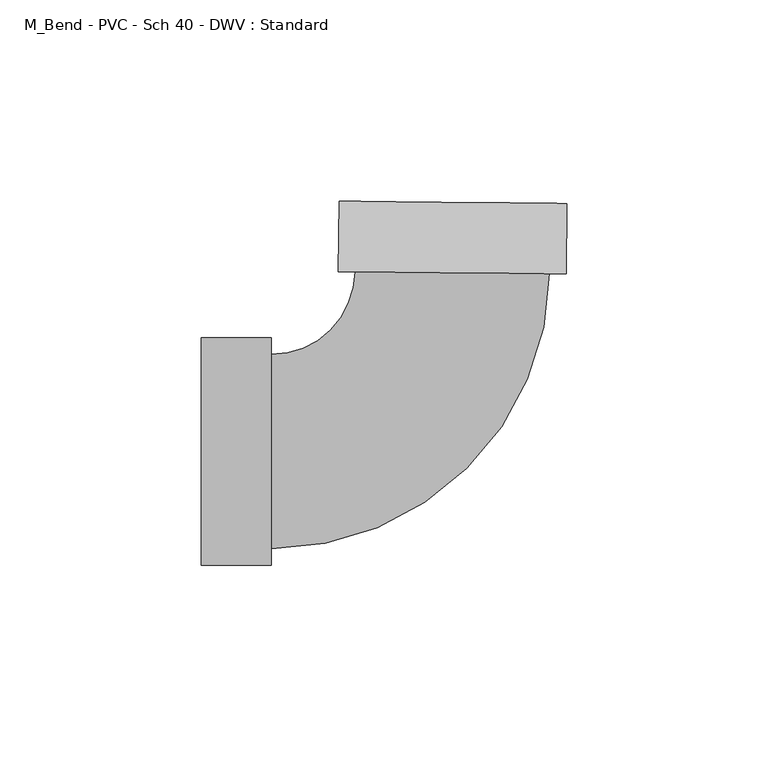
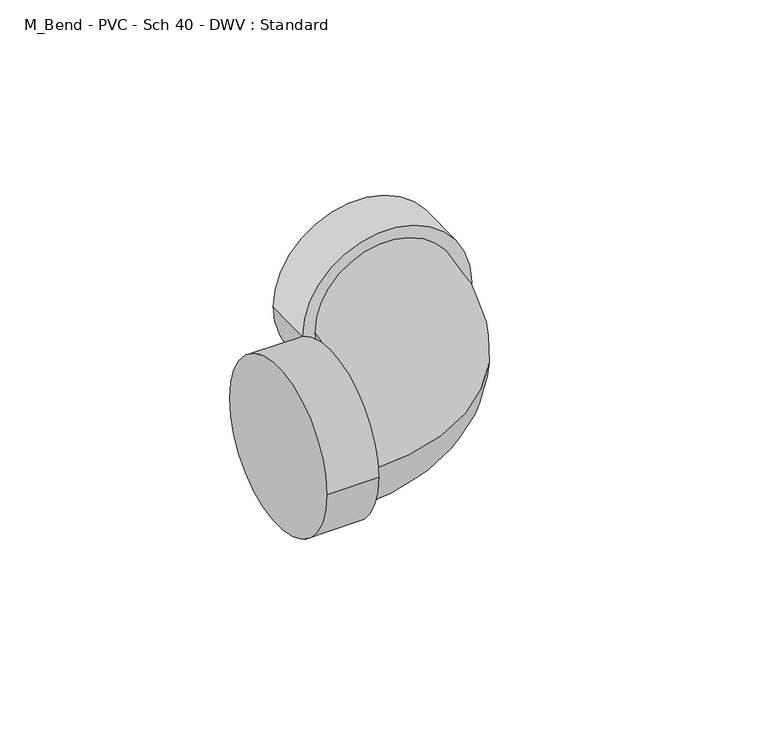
"""IFC4 building model written with IfcOpenShell, lengths in millimetres: pipe fitting geometry, M_Bend - PVC - Sch 40 - DWV : Standard."""

import ifcopenshell
import ifcopenshell.guid

model = None  # the IFC model being written
_history = None  # IfcOwnerHistory: only IFC2X3 demands one
_inside = {}  # id of a spatial element -> (the spatial element, [elements in it])
_under = {}  # id of a project, library or spatial element -> (it, [spatial elements below it])
_declared = {}  # id of a project -> (the project, [libraries it declares])
_typed = {}  # id of a type object -> (the type object, [elements of that type])
_made_of = {}  # id of a material, layer set ... -> (it, [elements and type objects made of it])


def new_model(schema):
    """Start an empty IFC model of exactly this schema.

    Asked for "IFC4X3", IfcOpenShell would pick the latest addendum, in which some entities
    have other attributes; the version numbers below select the first issue.
    IFC2X3 requires an IfcOwnerHistory on every rooted entity: one is made here for all.
    """
    global model, _history
    if schema == "IFC4X3":
        model = ifcopenshell.file(schema_version=(4, 3, 0, 0))
    else:
        model = ifcopenshell.file(schema=schema)
    _inside.clear()
    _under.clear()
    _declared.clear()
    _typed.clear()
    _made_of.clear()
    _history = None
    if model.schema == "IFC2X3":
        org = make("IfcOrganization", Name="unknown")
        user = make(
            "IfcPersonAndOrganization",
            ThePerson=make("IfcPerson", FamilyName="unknown"),
            TheOrganization=org,
        )
        app = make(
            "IfcApplication",
            ApplicationDeveloper=org,
            Version="unknown",
            ApplicationFullName="unknown",
            ApplicationIdentifier="unknown",
        )
        _history = make(
            "IfcOwnerHistory",
            OwningUser=user,
            OwningApplication=app,
            ChangeAction="ADDED",
            CreationDate=0,
        )
    return model


def make(cls, **values):
    """One entity of the class cls with the attributes given. An attribute that is None is left unset."""
    return model.create_entity(
        cls, **{name: value for name, value in values.items() if value is not None}
    )


def rooted(cls, **values):
    """An entity with a GlobalId (a new one), such as an element, a storey or a relation."""
    return make(cls, GlobalId=ifcopenshell.guid.new(), OwnerHistory=_history, **values)


def si_unit(unit_type, name, prefix=None):
    """IfcSIUnit, for example si_unit("LENGTHUNIT", "METRE", prefix="MILLI")."""
    return make("IfcSIUnit", UnitType=unit_type, Prefix=prefix, Name=name)


def assignment(units):
    """IfcUnitAssignment: the units of a project."""
    return None if units is None else make("IfcUnitAssignment", Units=units)


def point(xyz):
    """IfcCartesianPoint."""
    return None if xyz is None else make("IfcCartesianPoint", Coordinates=xyz)


def direction(xyz):
    """IfcDirection."""
    return None if xyz is None else make("IfcDirection", DirectionRatios=xyz)


def frame(location, z_axis=None, x_axis=None):
    """IfcAxis2Placement3D, a coordinate frame: its origin and axes. An axis left out is left unset."""
    return make(
        "IfcAxis2Placement3D",
        Location=point(location),
        Axis=direction(z_axis),
        RefDirection=direction(x_axis),
    )


def origin():
    """The frame at (0, 0, 0) with its axes left unset."""
    return frame((0.0, 0.0, 0.0))


def place(relative_to, where):
    """IfcLocalPlacement: puts the frame where relative to a parent placement (None: the world)."""
    return make(
        "IfcLocalPlacement", PlacementRelTo=relative_to, RelativePlacement=where
    )


def context(
    kind, dimensions, precision=None, world=None, true_north=None, identifier=None
):
    """IfcGeometricRepresentationContext, for example the 3D "Model" context."""
    return make(
        "IfcGeometricRepresentationContext",
        ContextIdentifier=identifier,
        ContextType=kind,
        CoordinateSpaceDimension=dimensions,
        Precision=precision,
        WorldCoordinateSystem=world,
        TrueNorth=true_north,
    )


def project(units=None, contexts=None):
    """IfcProject with its units and contexts."""
    return rooted(
        "IfcProject",
        Name="project",
        RepresentationContexts=contexts,
        UnitsInContext=assignment(units),
    )


def spatial(cls, under=None, at=None, **own):
    """A site, building, storey or space (cls), placed at a placement, below another one or the project."""
    s = rooted(cls, ObjectPlacement=at, **own)
    if under is not None:
        _under.setdefault(under.id(), (under, []))[1].append(s)
    return s


def circle_curve(where, radius):
    """IfcCircle in the frame where."""
    return make("IfcCircle", Position=where, Radius=radius)


def ellipse_curve(where, semi_axis1, semi_axis2):
    """IfcEllipse in the frame where."""
    return make(
        "IfcEllipse", Position=where, SemiAxis1=semi_axis1, SemiAxis2=semi_axis2
    )


def trimmed(basis, trim1, trim2, sense, master):
    """IfcTrimmedCurve: the piece of a basis curve between two trims."""
    return make(
        "IfcTrimmedCurve",
        BasisCurve=basis,
        Trim1=trim1,
        Trim2=trim2,
        SenseAgreement=sense,
        MasterRepresentation=master,
    )


def shape(context_of_items, identifier, shape_type, items):
    """IfcShapeRepresentation: the items that make up one representation, for example the "Body"."""
    return make(
        "IfcShapeRepresentation",
        ContextOfItems=context_of_items,
        RepresentationIdentifier=identifier,
        RepresentationType=shape_type,
        Items=items,
    )


def source(mapping_origin, context_of_items, identifier, shape_type, items):
    """IfcRepresentationMap: a shape defined once, which mapped items show again and again."""
    return make(
        "IfcRepresentationMap",
        MappingOrigin=mapping_origin,
        MappedRepresentation=shape(context_of_items, identifier, shape_type, items),
    )


def transform(
    local_origin,
    x_axis=None,
    y_axis=None,
    z_axis=None,
    scale=None,
    scale2=None,
    scale3=None,
    uniform=True,
):
    """IfcCartesianTransformationOperator3D, or its non-uniform kind. x_axis, y_axis, z_axis: its Axis1, 2, 3."""
    if uniform:
        return make(
            "IfcCartesianTransformationOperator3D",
            Axis1=direction(x_axis),
            Axis2=direction(y_axis),
            LocalOrigin=point(local_origin),
            Scale=scale,
            Axis3=direction(z_axis),
        )
    return make(
        "IfcCartesianTransformationOperator3DnonUniform",
        Axis1=direction(x_axis),
        Axis2=direction(y_axis),
        LocalOrigin=point(local_origin),
        Scale=scale,
        Axis3=direction(z_axis),
        Scale2=scale2,
        Scale3=scale3,
    )


def mapped(mapping_source, mapping_target):
    """IfcMappedItem: shows the shape of a source again, moved by a transform."""
    return make(
        "IfcMappedItem", MappingSource=mapping_source, MappingTarget=mapping_target
    )


def made_of(thing, what):
    """Note that an element or type object is made of a material, layer set ...; save() writes the relation."""
    if what is not None:
        _made_of.setdefault(what.id(), (what, []))[1].append(thing)
    return thing


def element(
    cls,
    number,
    at=None,
    inside=None,
    cuts=None,
    type_object=None,
    material=None,
    context=None,
    identifier="Body",
    shape_type=None,
    held_by="IfcProductDefinitionShape",
    body=None,
    shapes=None,
    **own,
):
    """One element of the class cls, such as IfcWall. Its Tag is "e" and its number.

    at: its placement. inside: the storey or other place that contains it. cuts: it is an
    opening in that element (IfcRelVoidsElement). A single representation is given by context,
    identifier, shape_type and body (its items); several are given by shapes. held_by: the class
    of the entity that holds the representations. save() writes the other relations.
    """
    e = rooted(cls, Tag="e%d" % number, ObjectPlacement=at, **own)
    if body is not None:
        shapes = [shape(context, identifier, shape_type, body)]
    if shapes is not None:
        e.Representation = make(held_by, Representations=shapes)
    if inside is not None:
        _inside.setdefault(inside.id(), (inside, []))[1].append(e)
    if cuts is not None:
        rooted(
            "IfcRelVoidsElement", RelatingBuildingElement=cuts, RelatedOpeningElement=e
        )
    if type_object is not None:
        _typed.setdefault(type_object.id(), (type_object, []))[1].append(e)
    return made_of(e, material)


def aggregate(whole, parts):
    """IfcRelAggregates: a whole, such as a stair, and the parts it consists of."""
    return rooted("IfcRelAggregates", RelatingObject=whole, RelatedObjects=parts)


def save(model, path):
    """Write the relations noted so far, then the file.

    IfcRelAggregates (storeys below a building ...), IfcRelContainedInSpatialStructure (elements
    in a storey), IfcRelDefinesByType, IfcRelAssociatesMaterial and IfcRelDeclares: one each for
    every whole, place, type object, material and project.
    """
    for whole, parts in _under.values():
        aggregate(whole, parts)
    for where, things in _inside.values():
        rooted(
            "IfcRelContainedInSpatialStructure",
            RelatedElements=things,
            RelatingStructure=where,
        )
    for kind, things in _typed.values():
        rooted("IfcRelDefinesByType", RelatedObjects=things, RelatingType=kind)
    for what, things in _made_of.values():
        rooted("IfcRelAssociatesMaterial", RelatedObjects=things, RelatingMaterial=what)
    for by, libraries in _declared.values():
        rooted("IfcRelDeclares", RelatingContext=by, RelatedDefinitions=libraries)
    model.write(path)


def plane_surface(at):
    """IfcPlane: the flat surface through the origin of the frame at, square to its z axis."""
    return make("IfcPlane", Position=at)


def cylinder_surface(at, radius):
    """IfcCylindricalSurface: all points at the distance radius from the z axis of the frame at."""
    return make("IfcCylindricalSurface", Position=at, Radius=radius)


def revolved_surface(curve, axis_point, axis_direction):
    """IfcSurfaceOfRevolution: the curve turned about the line through axis_point along axis_direction."""
    return make(
        "IfcSurfaceOfRevolution",
        SweptCurve=make("IfcArbitraryOpenProfileDef", ProfileType="CURVE", Curve=curve),
        AxisPosition=make("IfcAxis1Placement", Location=point(axis_point), Axis=direction(axis_direction)),
    )


def advanced_brep(points, edges, surfaces, faces):
    """IfcAdvancedBrep: a solid bounded by faces that lie on surfaces and meet in shared edges.

    An edge is (start, end): straight between two places in points (the first is 0);
    or (start, end, curve); or (start, end, curve, False) where it runs against its curve.
    A face is (place in surfaces, loops), or (place, loops, False) where it looks against
    its surface's normal. A loop lists edges by number (the first is 1), with a minus sign
    where the edge is run from its end to its start. The first loop is the outer one.
    """
    corners = [point(p) for p in points]
    vertices = [make("IfcVertexPoint", VertexGeometry=c) for c in corners]
    made = []
    for start, end, *more in edges:
        made.append(
            make(
                "IfcEdgeCurve",
                EdgeStart=vertices[start],
                EdgeEnd=vertices[end],
                EdgeGeometry=more[0] if more else make("IfcPolyline", Points=[corners[start], corners[end]]),
                SameSense=more[1] if len(more) > 1 else True,
            )
        )
    hull = []
    for where, loops, *sense in faces:
        bounds = []
        for j, loop in enumerate(loops):
            ring = [make("IfcOrientedEdge", EdgeElement=made[abs(k) - 1], Orientation=k > 0) for k in loop]
            bounds.append(
                make(
                    "IfcFaceOuterBound" if j == 0 else "IfcFaceBound",
                    Bound=make("IfcEdgeLoop", EdgeList=ring),
                    Orientation=True,
                )
            )
        hull.append(make("IfcAdvancedFace", Bounds=bounds, FaceSurface=surfaces[where], SameSense=sense[0] if sense else True))
    return make("IfcAdvancedBrep", Outer=make("IfcClosedShell", CfsFaces=hull))


def m_bend_pvc_sch_40_dwv_standard_1e7bdcc1(model_context):
    return source(origin(), model_context, "Body", "AdvancedBrep", [
        advanced_brep(
        [(-61.8998, -28.2829, 0.0), (-61.8998, 28.2829, 0.0), (-44.45, -28.2829, 0.0), (-44.45, 28.2829, 0.0), (-44.45, -24.13, 0.0), (-44.45, 24.13, 0.0), (-23.6843158, 44.6890656, 0.0), (24.5732714, 44.2064897, 0.0), (28.7259637, 44.1649628, 0.0), (-27.8370082, 44.7305925, 0.0), (28.900453, 61.6138904, 0.0), (-27.6625189, 62.1795201, 0.0)],
        [
            (0, 1, circle_curve(frame((-61.8998, 0.0, 0.0), z_axis=(-1.0, 0.0, 0.0), x_axis=(0.0, 1.0, 0.0)), 28.2829)),
            (1, 0, circle_curve(frame((-61.8998, 0.0, 0.0), z_axis=(-1.0, 0.0, 0.0), x_axis=(0.0, 1.0, 0.0)), 28.2829)),
            (2, 3, circle_curve(frame((-44.45, 0.0, 0.0), z_axis=(1.0, 0.0, 0.0), x_axis=(0.0, 1.0, 0.0)), 28.2829)),
            (3, 2, circle_curve(frame((-44.45, 0.0, 0.0), z_axis=(1.0, 0.0, 0.0), x_axis=(0.0, 1.0, 0.0)), 28.2829)),
            (4, 5, circle_curve(frame((-44.45, 0.0, 0.0), z_axis=(-1.0, 0.0, 0.0), x_axis=(0.0, 1.0, 0.0)), 24.13)),
            (5, 4, circle_curve(frame((-44.45, 0.0, 0.0), z_axis=(-1.0, 0.0, 0.0), x_axis=(0.0, 1.0, 0.0)), 24.13)),
            (0, 2),
            (3, 1),
            (6, 5, circle_curve(frame((-44.45, 44.8967224, 0.0), z_axis=(0.0, 0.0, -1.0), x_axis=(0.0, -1.0, 0.0)), 20.7667224)),
            (4, 7, circle_curve(frame((-44.45, 44.8967224, 0.0), z_axis=(0.0, 0.0, 1.0), x_axis=(0.0, -1.0, 0.0)), 69.0267224)),
            (7, 6, circle_curve(frame((0.4444778, 44.4477777, 0.0), z_axis=(-0.009999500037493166, -0.9999500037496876, 0.0), x_axis=(-0.9999500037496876, 0.009999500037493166, 0.0)), 24.13)),
            (6, 7, circle_curve(frame((0.4444778, 44.4477777, 0.0), z_axis=(-0.009999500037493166, -0.9999500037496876, 0.0), x_axis=(-0.9999500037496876, 0.009999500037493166, 0.0)), 24.13)),
            (8, 9, circle_curve(frame((0.4444778, 44.4477777, 0.0), z_axis=(-0.009999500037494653, -0.9999500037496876, 0.0), x_axis=(-0.9999500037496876, 0.009999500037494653, 0.0)), 28.2829)),
            (9, 8, circle_curve(frame((0.4444778, 44.4477777, 0.0), z_axis=(-0.009999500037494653, -0.9999500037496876, 0.0), x_axis=(-0.9999500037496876, 0.009999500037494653, 0.0)), 28.2829)),
            (10, 11, circle_curve(frame((0.6189671, 61.8967052, 0.0), z_axis=(0.009999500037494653, 0.9999500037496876, 0.0), x_axis=(-0.9999500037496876, 0.009999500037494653, 0.0)), 28.2829)),
            (11, 10, circle_curve(frame((0.6189671, 61.8967052, 0.0), z_axis=(0.009999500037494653, 0.9999500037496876, 0.0), x_axis=(-0.9999500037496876, 0.009999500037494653, 0.0)), 28.2829)),
            (8, 10),
            (11, 9),
        ],
        [
            plane_surface(frame((-61.8998, 0.0, 0.0), z_axis=(-1.0, 0.0, 0.0), x_axis=(0.0, 0.0, 1.0))),
            plane_surface(frame((-44.45, 0.0, 0.0), z_axis=(1.0, 0.0, 0.0), x_axis=(0.0, 0.0, 1.0))),
            cylinder_surface(frame((-61.8998, 0.0, 0.0), z_axis=(-1.0, 0.0, 0.0), x_axis=(0.0, 1.0, 0.0)), 28.2829),
            revolved_surface(trimmed(ellipse_curve(frame((-44.45, 0.0, 0.0), z_axis=(-1.0, 0.0, 0.0), x_axis=(0.0, 1.0, 0.0)), 24.13, 24.13), [point((-44.45, -24.13, 0.0))], [point((-44.45, 24.13, 0.0))], True, "CARTESIAN"), (-44.45, 44.8967224, 0.0), (0.0, 0.0, 1.0)),
            revolved_surface(trimmed(ellipse_curve(frame((-44.45, 0.0, 0.0), z_axis=(-1.0, 0.0, 0.0), x_axis=(0.0, 1.0, 0.0)), 24.13, 24.13), [point((-44.45, 24.13, 0.0))], [point((-44.45, -24.13, 0.0))], True, "CARTESIAN"), (-44.45, 44.8967224, 0.0), (0.0, 0.0, 1.0)),
            plane_surface(frame((0.4444778, 44.4477777, 0.0), z_axis=(-0.009999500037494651, -0.9999500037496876, 0.0), x_axis=(0.0, 0.0, 1.0))),
            plane_surface(frame((0.6189671, 61.8967052, 0.0), z_axis=(0.009999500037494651, 0.9999500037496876, 0.0), x_axis=(0.0, 0.0, 1.0))),
            cylinder_surface(frame((0.4444778, 44.4477777, 0.0), z_axis=(-0.009999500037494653, -0.9999500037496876, 0.0), x_axis=(-0.9999500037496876, 0.009999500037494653, 0.0)), 28.2829),
        ],
        [
            (0, [[1, 2]]),
            (1, [[3, 4], [5, 6]]),
            (2, [[-1, 7, -4, 8]]),
            (2, [[-2, -8, -3, -7]]),
            (3, [[9, -5, 10, 11]]),
            (4, [[-9, 12, -10, -6]]),
            (5, [[13, 14], [-11, -12]]),
            (6, [[15, 16]]),
            (7, [[-13, 17, -16, 18]]),
            (7, [[-14, -18, -15, -17]]),
        ],
    ),
    ])


if __name__ == "__main__":
    model = new_model("IFC4")
    model_context = context("Model", 3, world=origin())
    ifc_project = project(units=[si_unit("LENGTHUNIT", "METRE", prefix="MILLI")], contexts=[model_context])
    site = spatial("IfcSite", under=ifc_project)
    building = spatial("IfcBuilding", under=site)
    placement = place(None, origin())
    m_bend_pvc_sch_40_dwv_standard_shape = m_bend_pvc_sch_40_dwv_standard_1e7bdcc1(model_context)
    element("IfcPipeFitting", 1, ObjectType="M_Bend - PVC - Sch 40 - DWV : Standard", at=placement, inside=building, context=model_context, shape_type="MappedRepresentation", body=[
        mapped(m_bend_pvc_sch_40_dwv_standard_shape, transform((0.0, 0.0, 0.0), x_axis=(1.0, 0.0, 0.0), y_axis=(0.0, 1.0, 0.0), z_axis=(0.0, 0.0, 1.0))),
    ])
    save(model, "model.ifc")
